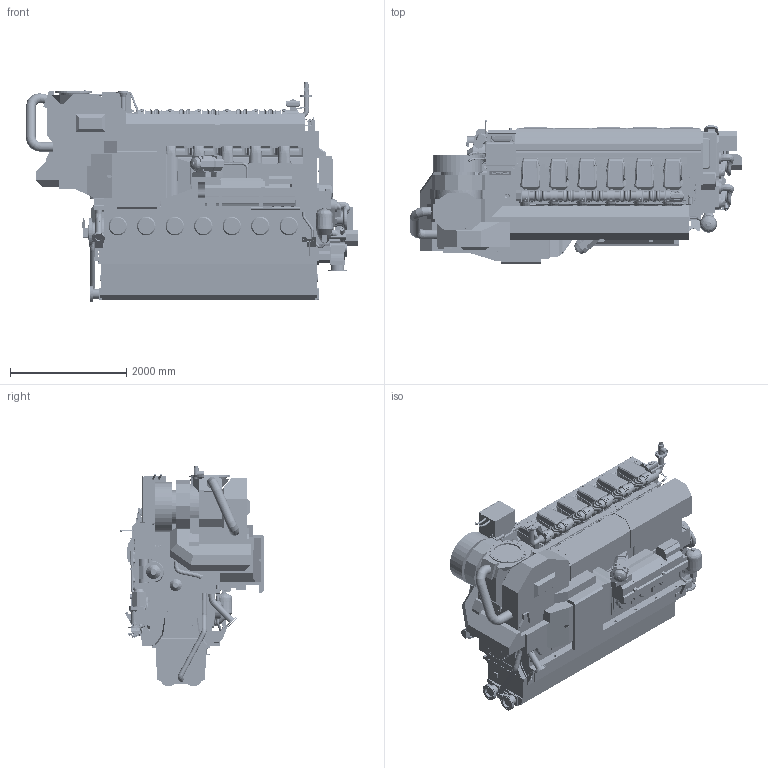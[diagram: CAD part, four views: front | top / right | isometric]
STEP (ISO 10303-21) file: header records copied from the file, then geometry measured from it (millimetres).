
FILE_DESCRIPTION(/* description */ (''),/* implementation_level */ '2;1');
FILE_NAME(/* name */ 'DAAF380587_A.stp',/* time_stamp */ '2021-11-09T14:05:08+02:00',/* author */ (''),/* organization */ (''),/* preprocessor_version */ 'ST-DEVELOPER v16.7',/* originating_system */ 'SIEMENS PLM Software NX 1915',/* authorisation */ '');
FILE_SCHEMA (('AUTOMOTIVE_DESIGN { 1 0 10303 214 3 1 1 1 }'));
Products named in the file (63): PABA089633_-; PABA065852_-; PABA066964_-; PAAF063769_-; PAAF895907_-; PAAF895909_-; PAAF906209_-; PAAF975946_-; PAAF975926_-; PABA181135_-; PAAF694391_-; PAAF624162_-; PAAF619118_-; PAAF619539_-; PAAF619521_-; PAAF906214_-; PAAF909496_-; PAAF909498_-; PAAF620935_-; PAAF616354_-; PAAF555086_-; PAAF555085_-; PAAF397145_-; PAAF291916_-; PAAF293701_-; PAAF111190_A; PAAF271372_-; PAAF270351_-; PAAF261807_-; PAAF247479_-; PAAF247485_-; PAAF243367_-; PAAF243503_-; PAAF243746_-; PAAF243671_-; PAAF243686_-; PAAF243622_-; PAAF243345_-; PAAF238216_-; PAAF064319_-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
Assembly tree (91 placements, depth 2):
  PAAF643723_A
    PAAF063630_-
    PAAF074461_-
    PAAF078046_-
    PAAF074388_-
    PAAF078074_-
    PAAF078187_-
    PAAF078236_-
    PAAF078241_-
    PAAF093819_-
    PAAF093493_-
    PAAF068478_-
    PAAF068492_-
    PAAF074909_-
    PAAF078633_-
    PAAF159661_-
    PAAF087111_-
    PAAF087114_-
    PAAF087136_-
    PAAF093490_-
    PAAF087122_-
    PAAF093585_-
    PAAF087082_-
    PAAF064319_-
    PAAF238216_-
    PAAF243345_-
    PAAF243622_-
    PAAF243686_-
    PAAF243671_-
    PAAF243746_-
    PAAF243503_-  x11
    PAAF243367_-
    PAAF247485_-
    PAAF247479_-
    PAAF261807_-
    PAAF270351_-
    PAAF271372_-
    PAAF111190_A
    PAAF293701_-  x11
    PAAF291916_-
    PAAF397145_-
    PAAF555085_-
    PAAF555086_-
    PAAF616354_-
    PAAF620935_-
    PAAF909498_-
    PAAF909496_-
    PAAF906214_-
    PAAF619521_-
    PAAF619539_-
    PAAF619118_-
    PAAF624162_-
    PAAF694391_-
    PABA181135_-
    PAAF975926_-  x6
    PAAF975946_-  x5
    PAAF906209_-
    PAAF895909_-
    PAAF895907_-
    PAAF063769_-
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Bounding box: 5707.3 x 2472.13 x 3791.89 mm (x, y, z)
Volume: 13896179270.6 mm3; surface area: 200341295.1 mm2
Topology: 202 solids, 209 shells, 10276 faces, 26024 edges, 16777 vertices
Faces by surface type: plane 6035, cylinder 2560, bspline 1272, torus 268, cone 79, extrusion 51, sphere 9, revolution 2
Full cylindrical faces by diameter (mm): 1 x6, 3 x3, 6 x6, 8 x28, 9.539 x2, 10.2 x18, 11 x1, 11.908 x1, 12 x6, 13.2 x4, 13.5 x4, 14 x6, 14.5 x1, 15 x20, 15.6 x4, 15.7 x4, 16 x4, 17 x10, 18 x77, 18.5 x2, 20 x1, 20.075 x1, 22 x77, 24 x1, 26 x3, 28 x3, 30 x11, 30.853 x2, 31 x9, 33 x5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
Entity records: 364420 total; most frequent: CARTESIAN_POINT 162618, ORIENTED_EDGE 40574, DIRECTION 38827, EDGE_CURVE 20287, VERTEX_POINT 13494, VECTOR 13107, LINE 13056, AXIS2_PLACEMENT_3D 12859
